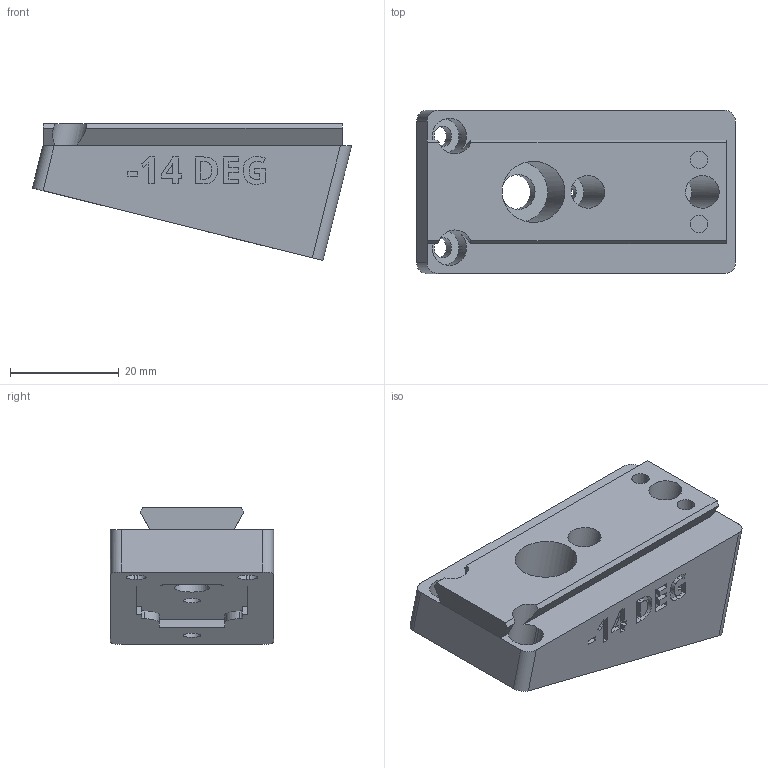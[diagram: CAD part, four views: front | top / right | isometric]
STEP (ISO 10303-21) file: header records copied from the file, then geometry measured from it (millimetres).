
FILE_DESCRIPTION(/* description */ ('STEP AP242 Edition 2','CAx-IF Rec.Pracs.---Representation and Presentation of Product Manufacturing Information (PMI)---4.0---2014-10-13','CAx-IF Rec.Pracs.---3D Tessellated Geometry---0.4---2014-09-14','2;1','CAx-IF Rec.Pracs.---User Defined Attributes---1.5---2016-08-15'),/* implementation_level */ '2;1');
FILE_NAME(/* name */ 'Camera Wedges - CAMERA MOUNTING WEDGE, NEG, -14 DEG',/* time_stamp */ '2026-08-11T00:06:25Z',/* author */ (''),/* organization */ (''),/* preprocessor_version */ 'ST-DEVELOPER v20',/* originating_system */ 'ONSHAPE BY PTC INC, 1.219',/* authorisation */ ' ');
FILE_SCHEMA (('AP242_MANAGED_MODEL_BASED_3D_ENGINEERING_MIM_LF { 1 0 10303 442 3 1 4 }'));
Length unit declared in the file: metre
Products named in the file (1): CAMERA MOUNTING WEDGE, NEG, -14 DEG
Bounding box: 58.62 x 30 x 25.16 mm (x, y, z)
Volume: 24535.6 mm3; surface area: 8441 mm2
Topology: 1 solids, 1 shells, 243 faces, 655 edges, 436 vertices
Faces by surface type: plane 171, cylinder 42, bspline 30
Full cylindrical faces by diameter (mm): 3.2 x4, 6 x2, 6.4 x1, 11.2 x1
Entity records: 7671 total; most frequent: CARTESIAN_POINT 1657, ORIENTED_EDGE 1294, DIRECTION 1111, EDGE_CURVE 647, LINE 491, VECTOR 491, VERTEX_POINT 436, AXIS2_PLACEMENT_3D 310
